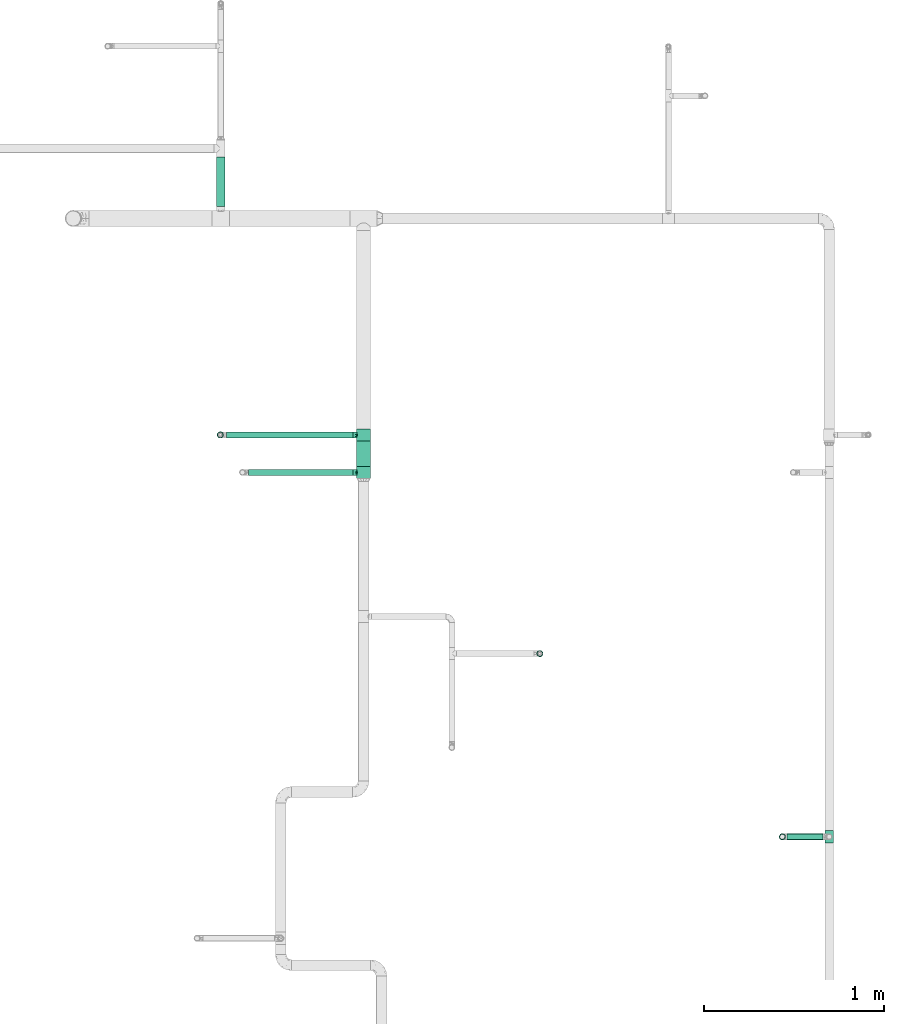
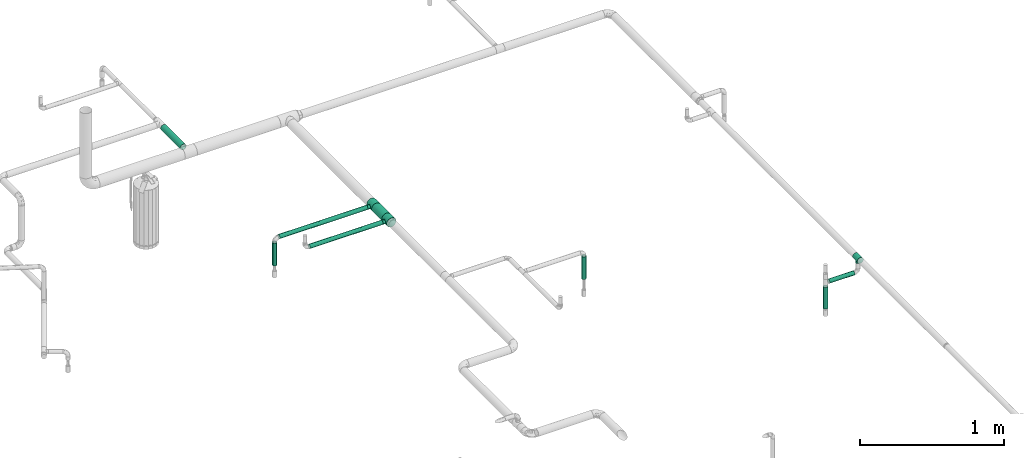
# One storey, part 7 of 43: 8 flow segments, 3 flow fittings.
"""IFC2X3 building model written with IfcOpenShell, lengths in millimetres."""

from ifc_helpers import new_model, entity, si_unit, converted_unit, derived_unit, direction, frame, origin_with_axes, origin_2d_with_axis, place, context, subcontext, project, spatial, hollow_circle, extrude, open_shell, surface_model, source, transform, mapped, type_object, element, save


model = new_model("IFC2X3")

# Units and contexts
model_context = context("Model", 3, precision=0.01, world=frame((0.0, 4.29681676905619e-09, 0.0)), true_north=direction((4.01073788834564e-13, 1.0)))
plan_context = context("Plan", 3, precision=0.01, world=frame((0.0, 4.29681676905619e-09, 0.0)), true_north=direction((4.01073788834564e-13, 1.0)))
body_context = subcontext(model_context, "Body", "Model", "MODEL_VIEW")
ifc_project = project(units=[converted_unit("PLANEANGLEUNIT", "DEGREE", entity("IfcPositiveLengthMeasure", 0.0174532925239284), si_unit("PLANEANGLEUNIT", "RADIAN"), dimensions=[0, 0, 0, 0, 0, 0, 0]), si_unit("AREAUNIT", "SQUARE_METRE"), si_unit("LENGTHUNIT", "METRE", prefix="MILLI"), si_unit("MASSUNIT", "GRAM", prefix="KILO"), si_unit("POWERUNIT", "WATT"), si_unit("PRESSUREUNIT", "PASCAL"), si_unit("FORCEUNIT", "NEWTON", prefix="KILO"), si_unit("ELECTRICVOLTAGEUNIT", "VOLT"), si_unit("ELECTRICCURRENTUNIT", "AMPERE"), si_unit("THERMODYNAMICTEMPERATUREUNIT", "DEGREE_CELSIUS"), si_unit("TIMEUNIT", "SECOND"), si_unit("VOLUMEUNIT", "CUBIC_METRE"), derived_unit("LINEARVELOCITYUNIT", [(si_unit("LENGTHUNIT", "METRE"), 1), (si_unit("TIMEUNIT", "SECOND"), -1)]), derived_unit("VOLUMETRICFLOWRATEUNIT", [(si_unit("VOLUMEUNIT", "CUBIC_METRE"), 1), (si_unit("TIMEUNIT", "SECOND"), -1)]), derived_unit("THERMALTRANSMITTANCEUNIT", [(si_unit("POWERUNIT", "WATT"), 1), (si_unit("THERMODYNAMICTEMPERATUREUNIT", "KELVIN"), -1), (si_unit("AREAUNIT", "SQUARE_METRE"), -1)]), derived_unit("SOUNDPRESSUREUNIT", [(si_unit("PRESSUREUNIT", "PASCAL"), 1)])], contexts=[model_context, plan_context])

# Site, building, storey
site_placement = place(None, frame((0.0, -4.29681676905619e-09, 0.0), z_axis=(0.0, 0.0, 1.0), x_axis=(1.0, 0.0, 0.0)))
site = spatial("IfcSite", under=ifc_project, at=site_placement, CompositionType="ELEMENT")
building_placement = place(site_placement, frame((0.0, 4.29681676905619e-09, 0.0), z_axis=(0.0, 0.0, 1.0), x_axis=(1.0, 0.0, 0.0)))
building = spatial("IfcBuilding", under=site, at=building_placement, Name="mc-building", CompositionType="ELEMENT")
storey_placement = place(building_placement, frame((0.0, 0.0, 210900.0), z_axis=(0.0, 0.0, 1.0), x_axis=(1.0, 0.0, 0.0)))
storey = spatial("IfcBuildingStorey", under=building, at=storey_placement, Name="Nivå F", CompositionType="ELEMENT", Elevation=210900.0)

# Flow fittings
pipe_fitting_type = type_object("IfcPipeFittingType", Name="magi_pipe_fe_tee_centric_90_NOR", PredefinedType="JUNCTION")
shared_shape_1 = source(origin_with_axes(), body_context, "Body", "SurfaceModel", [
    surface_model("IfcShellBasedSurfaceModel", [(-33.8, 9.86101, -36.80177), (-33.8, 0.0, -38.1), (-33.8, 36.80177, -9.86101), (-33.8, 19.05, -32.99557), (-33.8, 32.99557, -19.05), (-33.8, 26.94077, -26.94077), (-33.8, -38.1, 0.0), (-33.8, -19.05, -32.99557), (-33.8, -26.94077, -26.94077), (-33.8, -9.86101, -36.80177), (-33.8, -32.99557, -19.05), (-33.8, -36.80177, -9.86101), (-33.8, 38.1, 0.0), (-33.8, 32.99557, 19.05), (-33.8, 36.80177, 9.86101), (-33.8, -36.80177, 9.86101), (-33.8, 19.05, 32.99557), (-33.8, 26.94077, 26.94077), (-33.8, 9.86101, 36.80177), (-33.8, 0.0, 38.1), (-33.8, -26.94077, 26.94077), (-33.8, -32.99557, 19.05), (-33.8, -9.86101, 36.80177), (-33.8, -19.05, 32.99557), (33.8, 0.0, -38.1), (33.8, 9.86101, -36.80177), (33.8, 19.05, -32.99557), (33.8, 26.94077, -26.94077), (33.8, 32.99557, -19.05), (33.8, 36.80177, -9.86101), (33.8, -38.1, 0.0), (33.8, -9.86101, -36.80177), (33.8, -26.94077, -26.94077), (33.8, -19.05, -32.99557), (33.8, -32.99557, -19.05), (33.8, -36.80177, -9.86101), (33.8, 36.80177, 9.86101), (33.8, 32.99557, 19.05), (33.8, 19.05, 32.99557), (33.8, 0.0, 38.1), (33.8, 26.94077, 26.94077), (33.8, 9.86101, 36.80177), (33.8, -26.94077, 26.94077), (33.8, -32.99557, 19.05), (33.8, -36.80177, 9.86101), (33.8, -19.05, 32.99557), (33.8, -9.86101, 36.80177), (33.8, 38.1, 0.0), (33.8, -37.45089, 4.9305), (15.86072, -37.65053, 5.83504), (16.9, -38.1, 0.0), (12.92726, -36.51183, 10.88559), (2.96752, -34.27545, 16.63742), (33.8, -34.89867, 14.4555), (8.48894, -35.18611, 14.61328), (-8.4904, -35.18646, 14.61243), (-33.8, -34.89867, 14.4555), (-15.8612, -37.65073, 5.83372), (-33.8, -37.45089, 4.9305), (-16.9, -38.1, 0.0), (-12.9317, -36.51341, 10.88031), (-2.97221, -34.27585, 16.63658), (-33.8, -37.45089, -4.9305), (-15.8612, -37.65073, -5.83372), (15.86072, -37.65053, -5.83504), (33.8, -37.45089, -4.9305), (-12.9317, -36.51341, -10.88031), (-33.8, -34.89867, -14.4555), (-8.4904, -35.18646, -14.61243), (2.96752, -34.27545, -16.63742), (8.48894, -35.18611, -14.61328), (33.8, -34.89867, -14.4555), (12.92726, -36.51183, -10.88559), (-2.97221, -34.27585, -16.63658), (4.37404, -57.15, -16.32415), (-16.9, -57.15, 0.0), (0.0, -57.15, -16.9), (14.63583, -57.15, -8.45), (8.45, -57.15, -14.63583), (16.32415, -57.15, -4.37404), (11.9501, -57.15, -11.9501), (-11.9501, -57.15, -11.9501), (-8.45, -57.15, -14.63583), (-4.37404, -57.15, -16.32415), (-14.63583, -57.15, -8.45), (-16.32415, -57.15, -4.37404), (16.9, -57.15, 0.0), (8.45, -57.15, 14.63583), (16.32415, -57.15, 4.37404), (14.63583, -57.15, 8.45), (-8.45, -57.15, 14.63583), (11.9501, -57.15, 11.9501), (4.37404, -57.15, 16.32415), (-16.32415, -57.15, 4.37404), (-11.9501, -57.15, 11.9501), (-14.63583, -57.15, 8.45), (0.0, -57.15, 16.9), (-4.37404, -57.15, 16.32415), (-16.3806, -37.87537, 2.91686), (-5.7313, -34.73116, 15.62451), (-0.00235, -34.27565, 16.637), (5.72823, -34.73078, 15.62535), (16.38036, -37.87526, 2.91752), (16.38036, -37.87526, -2.91752), (5.72823, -34.73078, -15.62535), (-0.00235, -34.27565, -16.637), (-5.7313, -34.73116, -15.62451), (-16.3806, -37.87537, -2.91686)], [open_shell([[[0, 1, 2]], [[3, 0, 2]], [[2, 4, 5]], [[3, 2, 5]], [[6, 2, 1]], [[7, 8, 9]], [[8, 1, 9]], [[10, 11, 8]], [[6, 8, 11]], [[8, 6, 1]], [[6, 12, 2]], [[13, 14, 12]], [[15, 13, 6]], [[16, 13, 15]], [[17, 13, 16]], [[18, 16, 19]], [[20, 19, 21]], [[16, 15, 21]], [[22, 19, 23]], [[20, 23, 19]], [[21, 19, 16]], [[12, 6, 13]], [[24, 25, 26]], [[24, 26, 27]], [[27, 28, 29]], [[24, 27, 30]], [[30, 27, 29]], [[31, 32, 33]], [[31, 24, 32]], [[34, 30, 35]], [[30, 34, 32]], [[24, 30, 32]], [[29, 36, 30]], [[36, 37, 30]], [[30, 37, 38]], [[38, 39, 30]], [[38, 37, 40]], [[39, 38, 41]], [[30, 42, 43]], [[44, 30, 43]], [[45, 39, 46]], [[45, 42, 30]], [[30, 39, 45]], [[36, 29, 47]], [[48, 44, 49]], [[50, 30, 48]], [[44, 51, 49]], [[43, 42, 52]], [[50, 48, 49]], [[44, 53, 51]], [[52, 54, 43]], [[42, 20, 52]], [[54, 53, 43]], [[55, 21, 56]], [[57, 58, 59]], [[6, 59, 58]], [[57, 60, 15]], [[55, 61, 21]], [[51, 53, 54]], [[15, 60, 56]], [[21, 61, 20]], [[56, 60, 55]], [[61, 52, 20]], [[57, 15, 58]], [[42, 23, 20]], [[19, 46, 39]], [[22, 45, 46]], [[18, 39, 41]], [[37, 36, 14]], [[17, 38, 40]], [[13, 40, 37]], [[41, 38, 16]], [[12, 36, 47]], [[23, 45, 22]], [[22, 46, 19]], [[18, 19, 39]], [[41, 16, 18]], [[16, 38, 17]], [[13, 17, 40]], [[14, 13, 37]], [[36, 12, 14]], [[45, 23, 42]], [[12, 47, 29]], [[29, 28, 2]], [[59, 62, 63]], [[27, 4, 28]], [[9, 24, 31]], [[0, 26, 25]], [[64, 35, 65]], [[24, 1, 25]], [[31, 33, 7]], [[27, 26, 5]], [[66, 67, 68]], [[4, 2, 28]], [[12, 29, 2]], [[27, 5, 4]], [[3, 26, 0]], [[26, 3, 5]], [[0, 25, 1]], [[9, 1, 24]], [[31, 7, 9]], [[33, 8, 7]], [[32, 34, 69]], [[70, 34, 71]], [[70, 69, 34]], [[35, 72, 71]], [[32, 69, 8]], [[30, 50, 65]], [[64, 72, 35]], [[64, 65, 50]], [[72, 70, 71]], [[73, 68, 10]], [[10, 8, 73]], [[68, 67, 10]], [[73, 8, 69]], [[66, 63, 11]], [[63, 62, 11]], [[62, 59, 6]], [[11, 67, 66]], [[32, 8, 33]], [[74, 75, 76]], [[77, 74, 78]], [[77, 79, 74]], [[77, 78, 80]], [[75, 74, 79]], [[76, 81, 82]], [[82, 83, 76]], [[84, 75, 85]], [[81, 76, 84]], [[75, 84, 76]], [[79, 86, 75]], [[87, 86, 88]], [[87, 88, 89]], [[90, 75, 87]], [[87, 89, 91]], [[90, 87, 92]], [[93, 94, 95]], [[94, 93, 90]], [[90, 96, 97]], [[93, 75, 90]], [[92, 96, 90]], [[87, 75, 86]], [[93, 98, 75]], [[60, 95, 94]], [[93, 95, 57]], [[94, 90, 55]], [[98, 59, 75]], [[57, 95, 60]], [[97, 61, 99]], [[55, 60, 94]], [[96, 52, 100]], [[87, 101, 92]], [[99, 90, 97]], [[99, 55, 90]], [[93, 57, 98]], [[92, 52, 96]], [[49, 89, 88]], [[102, 86, 50]], [[102, 49, 88]], [[91, 89, 51]], [[96, 61, 97]], [[101, 52, 92]], [[87, 54, 101]], [[87, 91, 54]], [[54, 91, 51]], [[51, 89, 49]], [[86, 102, 88]], [[100, 61, 96]], [[79, 103, 86]], [[72, 77, 80]], [[79, 77, 64]], [[80, 78, 70]], [[103, 50, 86]], [[64, 77, 72]], [[74, 69, 104]], [[70, 72, 80]], [[76, 73, 105]], [[82, 106, 83]], [[107, 75, 59]], [[104, 78, 74]], [[104, 70, 78]], [[68, 82, 81]], [[79, 64, 103]], [[63, 84, 85]], [[107, 63, 85]], [[84, 66, 81]], [[76, 69, 74]], [[83, 106, 73]], [[73, 76, 83]], [[68, 106, 82]], [[68, 81, 66]], [[66, 84, 63]], [[75, 107, 85]], [[105, 69, 76]]])]),
])
for number, where, z_axis, x_axis, name in (
    (1, (607779.57252, 696033.67925, 2660.0), (0.0, 0.0, -1.0), (0.0, 1.0, 0.0), "magi_pipe_fe_tee_centric_90_NOR"),
    (2, (607779.57252, 695825.22914, 2660.0), (0.0, 0.0, -1.0), (0.0, 1.0, 0.0), "magi_pipe_fe_tee_centric_90_NOR"),
):
    element("IfcFlowFitting", number, at=place(storey_placement, frame(where, z_axis=z_axis, x_axis=x_axis)), inside=storey, type_object=pipe_fitting_type, Name=name, context=body_context, shape_type="MappedRepresentation", body=[
        mapped(shared_shape_1, transform((0.0, 0.0, 0.0), scale=1.0)),
    ])
shared_shape_2 = source(origin_with_axes(), body_context, "Body", "SurfaceModel", [
    surface_model("IfcShellBasedSurfaceModel", [(-33.8, 0.0, -24.2), (-33.8, -6.26342, -23.37541), (-33.8, 6.26342, -23.37541), (-33.8, 12.1, -20.95781), (-33.8, 17.11198, -17.11198), (-33.8, 20.95781, -12.1), (-33.8, -23.37541, -6.26342), (-33.8, 23.37541, -6.26342), (-33.8, -17.11198, -17.11198), (-33.8, -20.95781, -12.1), (-33.8, -12.1, -20.95781), (-33.8, -24.2, 0.0), (-33.8, -23.37541, 6.26342), (-33.8, 20.95781, 12.1), (-33.8, 23.37541, 6.26342), (-33.8, 24.2, 0.0), (-33.8, 12.1, 20.95781), (-33.8, 17.11198, 17.11198), (-33.8, -17.11198, 17.11198), (-33.8, 6.26342, 23.37541), (-33.8, -20.95781, 12.1), (-33.8, -12.1, 20.95781), (-33.8, -6.26342, 23.37541), (-33.8, 0.0, 24.2), (33.8, 6.26342, -23.37541), (33.8, -6.26342, -23.37541), (33.8, 0.0, -24.2), (33.8, 17.11198, -17.11198), (33.8, 12.1, -20.95781), (33.8, -23.37541, -6.26342), (33.8, 20.95781, -12.1), (33.8, 23.37541, -6.26342), (33.8, -17.11198, -17.11198), (33.8, -12.1, -20.95781), (33.8, -20.95781, -12.1), (33.8, -24.2, 0.0), (33.8, 24.2, 0.0), (33.8, 23.37541, 6.26342), (33.8, 20.95781, 12.1), (33.8, -23.37541, 6.26342), (33.8, -17.11198, 17.11198), (33.8, 12.1, 20.95781), (33.8, 17.11198, 17.11198), (33.8, 6.26342, 23.37541), (33.8, -20.95781, 12.1), (33.8, -12.1, 20.95781), (33.8, 0.0, 24.2), (33.8, -6.26342, 23.37541), (15.81824, -23.45734, 5.94922), (16.9, -24.2, 0.0), (12.87025, -21.57947, 10.95293), (33.8, -19.0349, 14.60599), (8.52813, -19.30697, 14.59044), (3.03527, -17.5853, 16.6252), (-3.04044, -17.58619, 16.62425), (-8.52961, -19.30762, 14.58958), (-33.8, -19.0349, 14.60599), (-16.9, -24.2, 0.0), (-15.81885, -23.45775, 5.9476), (-12.87368, -21.58151, 10.9489), (3.03527, -17.5853, -16.6252), (33.8, -19.0349, -14.60599), (8.52813, -19.30697, -14.59044), (-8.52961, -19.30762, -14.58958), (-33.8, -19.0349, -14.60599), (12.87025, -21.57947, -10.95293), (-3.04044, -17.58619, -16.62425), (15.81824, -23.45734, -5.94922), (-12.87368, -21.58151, -10.9489), (-15.81885, -23.45775, -5.9476), (4.37404, -36.3, -16.32415), (-16.9, -36.3, 0.0), (0.0, -36.3, -16.9), (14.63583, -36.3, -8.45), (8.45, -36.3, -14.63583), (16.32415, -36.3, -4.37404), (11.9501, -36.3, -11.9501), (-11.9501, -36.3, -11.9501), (-8.45, -36.3, -14.63583), (-4.37404, -36.3, -16.32415), (-14.63583, -36.3, -8.45), (-16.32415, -36.3, -4.37404), (16.9, -36.3, 0.0), (8.45, -36.3, 14.63583), (16.32415, -36.3, 4.37404), (14.63583, -36.3, 8.45), (-8.45, -36.3, 14.63583), (11.9501, -36.3, 11.9501), (4.37404, -36.3, 16.32415), (-16.32415, -36.3, 4.37404), (-11.9501, -36.3, 11.9501), (-14.63583, -36.3, 8.45), (0.0, -36.3, 16.9), (-4.37404, -36.3, 16.32415), (-16.35943, -23.82888, 2.9738), (16.35912, -23.82867, 2.97461), (-0.00259, -17.58575, 16.62472), (16.35912, -23.82867, -2.97461), (-0.00259, -17.58575, -16.62472), (-16.35943, -23.82888, -2.9738)], [open_shell([[[0, 1, 2]], [[3, 2, 4]], [[5, 2, 6]], [[4, 2, 5]], [[7, 5, 6]], [[8, 9, 10]], [[1, 10, 9]], [[1, 9, 2]], [[9, 6, 2]], [[6, 11, 7]], [[11, 12, 7]], [[13, 14, 15]], [[13, 15, 12]], [[16, 17, 18]], [[12, 17, 13]], [[19, 16, 18]], [[20, 18, 12]], [[18, 17, 12]], [[21, 22, 18]], [[23, 18, 22]], [[18, 23, 19]], [[7, 12, 15]], [[24, 25, 26]], [[27, 24, 28]], [[29, 24, 30]], [[30, 24, 27]], [[29, 30, 31]], [[25, 32, 33]], [[32, 25, 34]], [[24, 34, 25]], [[24, 29, 34]], [[31, 35, 29]], [[31, 36, 35]], [[36, 37, 38]], [[39, 36, 38]], [[40, 38, 41]], [[41, 38, 42]], [[40, 41, 43]], [[39, 40, 44]], [[39, 38, 40]], [[45, 46, 47]], [[46, 45, 40]], [[43, 46, 40]], [[36, 39, 35]], [[35, 39, 48]], [[48, 49, 35]], [[39, 50, 48]], [[51, 40, 52]], [[52, 50, 44]], [[53, 52, 40]], [[54, 53, 21]], [[44, 50, 39]], [[55, 18, 56]], [[57, 58, 11]], [[12, 11, 58]], [[58, 59, 12]], [[55, 54, 18]], [[55, 20, 59]], [[20, 55, 56]], [[59, 20, 12]], [[18, 54, 21]], [[52, 44, 51]], [[53, 40, 45]], [[23, 47, 46]], [[22, 45, 47]], [[19, 46, 43]], [[38, 37, 14]], [[17, 41, 42]], [[13, 42, 38]], [[43, 41, 16]], [[15, 37, 36]], [[21, 45, 22]], [[22, 47, 23]], [[19, 23, 46]], [[43, 16, 19]], [[16, 41, 17]], [[13, 17, 42]], [[14, 13, 38]], [[37, 15, 14]], [[45, 21, 53]], [[5, 31, 30]], [[7, 36, 31]], [[4, 30, 27]], [[26, 25, 1]], [[2, 28, 24]], [[0, 24, 26]], [[27, 28, 3]], [[10, 25, 33]], [[15, 36, 7]], [[7, 31, 5]], [[4, 5, 30]], [[27, 3, 4]], [[3, 28, 2]], [[0, 2, 24]], [[1, 0, 26]], [[25, 10, 1]], [[33, 60, 10]], [[61, 34, 62]], [[63, 9, 64]], [[62, 60, 32]], [[34, 65, 62]], [[66, 10, 60]], [[29, 35, 67]], [[67, 65, 29]], [[49, 67, 35]], [[29, 65, 34]], [[66, 63, 8]], [[62, 32, 61]], [[64, 8, 63]], [[63, 68, 9]], [[8, 10, 66]], [[68, 69, 6]], [[69, 11, 6]], [[11, 69, 57]], [[68, 6, 9]], [[60, 33, 32]], [[70, 71, 72]], [[73, 70, 74]], [[73, 75, 70]], [[73, 74, 76]], [[71, 70, 75]], [[72, 77, 78]], [[78, 79, 72]], [[80, 71, 81]], [[77, 72, 80]], [[71, 80, 72]], [[75, 82, 71]], [[83, 82, 84]], [[83, 84, 85]], [[86, 71, 83]], [[83, 85, 87]], [[86, 83, 88]], [[89, 90, 91]], [[90, 89, 86]], [[86, 92, 93]], [[89, 71, 86]], [[88, 92, 86]], [[83, 71, 82]], [[89, 94, 71]], [[59, 91, 90]], [[89, 91, 58]], [[90, 86, 55]], [[89, 58, 94]], [[94, 57, 71]], [[58, 91, 59]], [[95, 48, 84]], [[55, 93, 54]], [[55, 59, 90]], [[92, 53, 96]], [[55, 86, 93]], [[53, 92, 88]], [[83, 52, 88]], [[87, 85, 50]], [[87, 52, 83]], [[48, 85, 84]], [[87, 50, 52]], [[52, 53, 88]], [[82, 95, 84]], [[48, 50, 85]], [[95, 82, 49]], [[92, 54, 93]], [[96, 54, 92]], [[75, 97, 82]], [[65, 73, 76]], [[75, 73, 67]], [[76, 74, 62]], [[97, 49, 82]], [[67, 73, 65]], [[62, 70, 60]], [[62, 65, 76]], [[72, 66, 98]], [[62, 74, 70]], [[99, 71, 57]], [[99, 69, 81]], [[75, 67, 97]], [[79, 66, 72]], [[69, 80, 81]], [[77, 80, 68]], [[72, 60, 70]], [[79, 63, 66]], [[63, 79, 78]], [[78, 77, 63]], [[63, 77, 68]], [[68, 80, 69]], [[71, 99, 81]], [[98, 60, 72]]])]),
])
flow_fitting_placement = place(storey_placement, frame((610366.6122, 693801.14405, 2660.0), z_axis=(-1.0, 0.0, 0.0), x_axis=(0.0, -1.0, 0.0)))
element("IfcFlowFitting", 3, at=flow_fitting_placement, inside=storey, type_object=pipe_fitting_type, Name="magi_pipe_fe_tee_centric_90_NOR", context=body_context, shape_type="MappedRepresentation", body=[
    mapped(shared_shape_2, transform((0.0, 0.0, 0.0), scale=1.0)),
])

# Flow segments
pipe_segment_type = type_object("IfcPipeSegmentType", Name="Stålrør normaltykke", PredefinedType="RIGIDSEGMENT")
shared_shape_3 = source(origin_with_axes(), body_context, "Body", "SweptSolid", [
    extrude(hollow_circle(Radius=16.9, WallThickness=2.0, at=origin_2d_with_axis()), frame((0.0, 0.0, 0.0), z_axis=(1.0, 0.0, 0.0), x_axis=(0.0, 1.0, 0.0)), (0.0, 0.0, 1.0), 192.0),
])
for number, where, z_axis, x_axis in (
    (4, (606983.98955, 696033.67925, 2626.20000000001), (0.0, 1.0, 0.0), (0.0, 0.0, -1.0)),
    (5, (608759.56903, 694818.86468, 2626.20000000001), (0.0, -1.0, 0.0), (0.0, 0.0, -1.0)),
):
    element("IfcFlowSegment", number, at=place(storey_placement, frame(where, z_axis=z_axis, x_axis=x_axis)), inside=storey, type_object=pipe_segment_type, Name="Stålrør normaltykke", context=body_context, shape_type="MappedRepresentation", body=[
        mapped(shared_shape_3, transform((0.0, 0.0, 0.0), scale=1.0)),
    ])
shared_shape_4 = source(origin_with_axes(), body_context, "Body", "SweptSolid", [
    extrude(hollow_circle(Radius=24.1, WallThickness=2.0, at=origin_2d_with_axis()), frame((0.0, 0.0, 0.0), z_axis=(1.0, 0.0, 0.0), x_axis=(0.0, 1.0, 0.0)), (0.0, 0.0, 1.0), 273.8),
])
flow_segment_1_placement = place(storey_placement, frame((606986.48955, 697303.05413, 2660.0), z_axis=(0.0, 0.0, 1.0), x_axis=(0.0, 1.0, 0.0)))
element("IfcFlowSegment", 6, at=flow_segment_1_placement, inside=storey, type_object=pipe_segment_type, Name="Stålrør normaltykke", context=body_context, shape_type="MappedRepresentation", body=[
    mapped(shared_shape_4, transform((0.0, 0.0, 0.0), scale=1.0)),
])
shared_shape_5 = source(origin_with_axes(), body_context, "Body", "SweptSolid", [
    extrude(hollow_circle(Radius=16.9, WallThickness=2.0, at=origin_2d_with_axis()), frame((0.0, 0.0, 0.0), z_axis=(1.0, 0.0, 0.0), x_axis=(0.0, 1.0, 0.0)), (0.0, 0.0, 1.0), 704.6),
])
flow_segment_2_placement = place(storey_placement, frame((607722.42252, 696033.67925, 2660.0), z_axis=(0.0, 0.0, 1.0), x_axis=(-1.0, 0.0, 0.0)))
element("IfcFlowSegment", 7, at=flow_segment_2_placement, inside=storey, type_object=pipe_segment_type, Name="Stålrør normaltykke", context=body_context, shape_type="MappedRepresentation", body=[
    mapped(shared_shape_5, transform((0.0, 0.0, 0.0), scale=1.0)),
])
shared_shape_6 = source(origin_with_axes(), body_context, "Body", "SweptSolid", [
    extrude(hollow_circle(Radius=38.0, WallThickness=2.0, at=origin_2d_with_axis()), frame((0.0, 0.0, 0.0), z_axis=(1.0, 0.0, 0.0), x_axis=(0.0, 1.0, 0.0)), (0.0, 0.0, 1.0), 140.9),
])
flow_segment_3_placement = place(storey_placement, frame((607779.57252, 695999.87925, 2660.0), z_axis=(0.0, 0.0, 1.0), x_axis=(0.0, -1.0, 0.0)))
element("IfcFlowSegment", 8, at=flow_segment_3_placement, inside=storey, type_object=pipe_segment_type, Name="Stålrør normaltykke", context=body_context, shape_type="MappedRepresentation", body=[
    mapped(shared_shape_6, transform((0.0, 0.0, 0.0), scale=1.0)),
])
shared_shape_7 = source(origin_with_axes(), body_context, "Body", "SweptSolid", [
    extrude(hollow_circle(Radius=16.9, WallThickness=2.0, at=origin_2d_with_axis()), frame((0.0, 0.0, 0.0), z_axis=(1.0, 0.0, 0.0), x_axis=(0.0, 1.0, 0.0)), (0.0, 0.0, 1.0), 581.7),
])
flow_segment_4_placement = place(storey_placement, frame((607140.69343, 695825.22914, 2660.0), z_axis=(0.0, 0.0, 1.0), x_axis=(1.0, 0.0, 0.0)))
element("IfcFlowSegment", 9, at=flow_segment_4_placement, inside=storey, type_object=pipe_segment_type, Name="Stålrør normaltykke", context=body_context, shape_type="MappedRepresentation", body=[
    mapped(shared_shape_7, transform((0.0, 0.0, 0.0), scale=1.0)),
])
shared_shape_8 = source(origin_with_axes(), body_context, "Body", "SweptSolid", [
    extrude(hollow_circle(Radius=16.9, WallThickness=2.0, at=origin_2d_with_axis()), frame((0.0, 0.0, 0.0), z_axis=(1.0, 0.0, 0.0), x_axis=(0.0, 1.0, 0.0)), (0.0, 0.0, 1.0), 200.8),
])
flow_segment_5_placement = place(storey_placement, frame((610131.9622, 693801.14405, 2546.25), z_axis=(0.0, 0.0, 1.0), x_axis=(1.0, 0.0, 0.0)))
element("IfcFlowSegment", 10, at=flow_segment_5_placement, inside=storey, type_object=pipe_segment_type, Name="Stålrør normaltykke", context=body_context, shape_type="MappedRepresentation", body=[
    mapped(shared_shape_8, transform((0.0, 0.0, 0.0), scale=1.0)),
])
shared_shape_9 = source(origin_with_axes(), body_context, "Body", "SweptSolid", [
    extrude(hollow_circle(Radius=16.9, WallThickness=2.0, at=origin_2d_with_axis()), frame((0.0, 0.0, 0.0), z_axis=(1.0, 0.0, 0.0), x_axis=(0.0, 1.0, 0.0)), (0.0, 0.0, 1.0), 183.1),
])
flow_segment_6_placement = place(storey_placement, frame((610106.6122, 693801.14405, 2329.35200000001), z_axis=(-1.0, 0.0, 0.0), x_axis=(0.0, 0.0, 1.0)))
element("IfcFlowSegment", 11, at=flow_segment_6_placement, inside=storey, type_object=pipe_segment_type, Name="Stålrør normaltykke", context=body_context, shape_type="MappedRepresentation", body=[
    mapped(shared_shape_9, transform((0.0, 0.0, 0.0), scale=1.0)),
])

save(model, "model.ifc")
